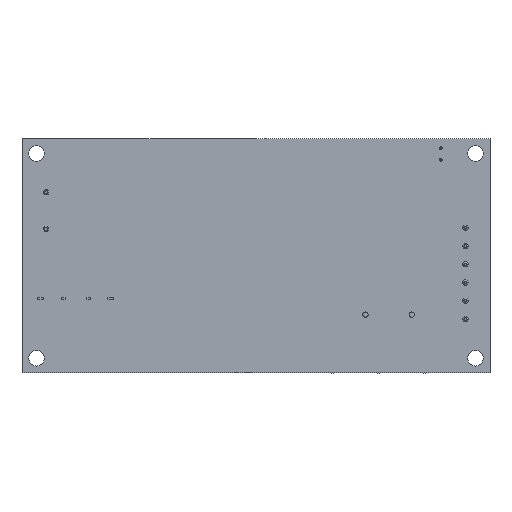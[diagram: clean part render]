
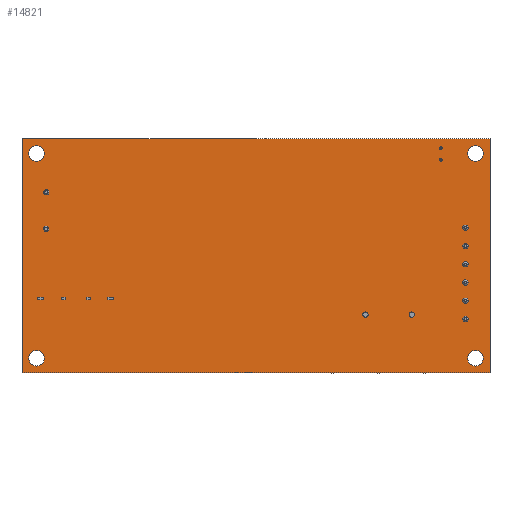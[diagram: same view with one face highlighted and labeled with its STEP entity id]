
A CAD part, front view. The second image highlights one B-rep face of the part: STEP entity #14821.
In plain terms, the highlighted planar face has unit normal (0, -1, 0).
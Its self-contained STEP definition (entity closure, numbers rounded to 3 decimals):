
#55 = PLANE ( 'NONE',  #9511 ) ;
#83 = FACE_BOUND ( 'NONE', #15185, .T. ) ;
#207 = DIRECTION ( 'NONE',  ( 0., 0., 1. ) ) ;
#258 = AXIS2_PLACEMENT_3D ( 'NONE', #8243, #9865, #9619 ) ;
#439 = EDGE_CURVE ( 'NONE', #11201, #5344, #13891, .T. ) ;
#660 = CARTESIAN_POINT ( 'NONE',  ( 98.425, 0., 1.475 ) ) ;
#857 = CARTESIAN_POINT ( 'NONE',  ( 0., 0., 0. ) ) ;
#880 = ORIENTED_EDGE ( 'NONE', *, *, #16663, .T. ) ;
#1185 = CARTESIAN_POINT ( 'NONE',  ( 3.175, 0., 47.625 ) ) ;
#1553 = DIRECTION ( 'NONE',  ( 0., 0., 1. ) ) ;
#1765 = DIRECTION ( 'NONE',  ( 0., 1., 0. ) ) ;
#1878 = DIRECTION ( 'NONE',  ( 1., 0., 0. ) ) ;
#1919 = VERTEX_POINT ( 'NONE', #5780 ) ;
#2081 = FACE_OUTER_BOUND ( 'NONE', #12130, .T. ) ;
#2194 = DIRECTION ( 'NONE',  ( 0., 0., 1. ) ) ;
#2321 = CARTESIAN_POINT ( 'NONE',  ( 3.175, 0., 3.175 ) ) ;
#2885 = VERTEX_POINT ( 'NONE', #12595 ) ;
#2900 = DIRECTION ( 'NONE',  ( 0., 0., 1. ) ) ;
#2935 = CARTESIAN_POINT ( 'NONE',  ( 98.425, 0., 49.325 ) ) ;
#2953 = EDGE_CURVE ( 'NONE', #13351, #8855, #3106, .T. ) ;
#3106 = CIRCLE ( 'NONE', #10464, 1.7 ) ;
#3183 = CARTESIAN_POINT ( 'NONE',  ( 101.6, 0., 0. ) ) ;
#3204 = VERTEX_POINT ( 'NONE', #12169 ) ;
#3669 = DIRECTION ( 'NONE',  ( 0., 1., 0. ) ) ;
#3682 = CIRCLE ( 'NONE', #258, 1.7 ) ;
#4125 = EDGE_LOOP ( 'NONE', ( #15573, #16204 ) ) ;
#4348 = CARTESIAN_POINT ( 'NONE',  ( 0., 0., 0. ) ) ;
#4511 = CARTESIAN_POINT ( 'NONE',  ( 98.425, 0., 3.175 ) ) ;
#4518 = EDGE_CURVE ( 'NONE', #17686, #1919, #14868, .T. ) ;
#4753 = ORIENTED_EDGE ( 'NONE', *, *, #16437, .F. ) ;
#4832 = EDGE_CURVE ( 'NONE', #8422, #11201, #11295, .T. ) ;
#4838 = CARTESIAN_POINT ( 'NONE',  ( 3.175, 0., 47.625 ) ) ;
#4876 = ORIENTED_EDGE ( 'NONE', *, *, #7910, .T. ) ;
#4898 = DIRECTION ( 'NONE',  ( 0., 1., 0. ) ) ;
#5296 = VECTOR ( 'NONE', #2194, 1000. ) ;
#5344 = VERTEX_POINT ( 'NONE', #6273 ) ;
#5371 = DIRECTION ( 'NONE',  ( 0., 0., 1. ) ) ;
#5415 = CARTESIAN_POINT ( 'NONE',  ( 3.175, 0., 45.925 ) ) ;
#5780 = CARTESIAN_POINT ( 'NONE',  ( 98.425, 0., 4.875 ) ) ;
#5939 = FACE_BOUND ( 'NONE', #13310, .T. ) ;
#6021 = VECTOR ( 'NONE', #14888, 1000. ) ;
#6273 = CARTESIAN_POINT ( 'NONE',  ( 101.6, 0., 50.8 ) ) ;
#6418 = AXIS2_PLACEMENT_3D ( 'NONE', #15742, #11348, #12983 ) ;
#6681 = AXIS2_PLACEMENT_3D ( 'NONE', #4511, #1765, #207 ) ;
#6936 = ORIENTED_EDGE ( 'NONE', *, *, #10031, .T. ) ;
#6966 = CARTESIAN_POINT ( 'NONE',  ( 101.6, 0., 0. ) ) ;
#7139 = CARTESIAN_POINT ( 'NONE',  ( 0., 0., 50.8 ) ) ;
#7423 = LINE ( 'NONE', #857, #8316 ) ;
#7490 = EDGE_CURVE ( 'NONE', #5344, #13847, #13795, .T. ) ;
#7613 = AXIS2_PLACEMENT_3D ( 'NONE', #14492, #11707, #1553 ) ;
#7910 = EDGE_CURVE ( 'NONE', #16603, #12824, #10432, .T. ) ;
#8243 = CARTESIAN_POINT ( 'NONE',  ( 98.425, 0., 47.625 ) ) ;
#8316 = VECTOR ( 'NONE', #12329, 1000. ) ;
#8422 = VERTEX_POINT ( 'NONE', #4348 ) ;
#8769 = VECTOR ( 'NONE', #1878, 1000. ) ;
#8828 = CIRCLE ( 'NONE', #16619, 1.7 ) ;
#8844 = DIRECTION ( 'NONE',  ( 0., 0., 1. ) ) ;
#8855 = VERTEX_POINT ( 'NONE', #5415 ) ;
#8997 = ORIENTED_EDGE ( 'NONE', *, *, #4832, .F. ) ;
#9337 = CARTESIAN_POINT ( 'NONE',  ( 0., 0., 0. ) ) ;
#9343 = EDGE_CURVE ( 'NONE', #8855, #13351, #8828, .T. ) ;
#9511 = AXIS2_PLACEMENT_3D ( 'NONE', #7139, #12760, #2900 ) ;
#9619 = DIRECTION ( 'NONE',  ( 0., 0., 1. ) ) ;
#9650 = EDGE_CURVE ( 'NONE', #1919, #17686, #9921, .T. ) ;
#9651 = CARTESIAN_POINT ( 'NONE',  ( 0., 0., 50.8 ) ) ;
#9712 = FACE_BOUND ( 'NONE', #4125, .T. ) ;
#9865 = DIRECTION ( 'NONE',  ( 0., 1., 0. ) ) ;
#9921 = CIRCLE ( 'NONE', #6418, 1.7 ) ;
#10031 = EDGE_CURVE ( 'NONE', #3204, #2885, #12822, .T. ) ;
#10432 = CIRCLE ( 'NONE', #13324, 1.7 ) ;
#10464 = AXIS2_PLACEMENT_3D ( 'NONE', #1185, #12653, #15468 ) ;
#11201 = VERTEX_POINT ( 'NONE', #9651 ) ;
#11295 = LINE ( 'NONE', #9337, #5296 ) ;
#11348 = DIRECTION ( 'NONE',  ( 0., 1., 0. ) ) ;
#11536 = DIRECTION ( 'NONE',  ( 0., 1., 0. ) ) ;
#11707 = DIRECTION ( 'NONE',  ( 0., 1., 0. ) ) ;
#12081 = ORIENTED_EDGE ( 'NONE', *, *, #7490, .F. ) ;
#12130 = EDGE_LOOP ( 'NONE', ( #8997, #4753, #12081, #18106 ) ) ;
#12169 = CARTESIAN_POINT ( 'NONE',  ( 3.175, 0., 4.875 ) ) ;
#12329 = DIRECTION ( 'NONE',  ( -1., 0., 0. ) ) ;
#12595 = CARTESIAN_POINT ( 'NONE',  ( 3.175, 0., 1.475 ) ) ;
#12653 = DIRECTION ( 'NONE',  ( 0., 1., 0. ) ) ;
#12760 = DIRECTION ( 'NONE',  ( 0., 1., 0. ) ) ;
#12780 = CIRCLE ( 'NONE', #7613, 1.7 ) ;
#12822 = CIRCLE ( 'NONE', #14647, 1.7 ) ;
#12824 = VERTEX_POINT ( 'NONE', #2935 ) ;
#12983 = DIRECTION ( 'NONE',  ( 0., 0., 1. ) ) ;
#13310 = EDGE_LOOP ( 'NONE', ( #18127, #14076 ) ) ;
#13324 = AXIS2_PLACEMENT_3D ( 'NONE', #14441, #11536, #8844 ) ;
#13337 = CARTESIAN_POINT ( 'NONE',  ( 0., 0., 50.8 ) ) ;
#13351 = VERTEX_POINT ( 'NONE', #14449 ) ;
#13793 = EDGE_LOOP ( 'NONE', ( #15714, #4876 ) ) ;
#13795 = LINE ( 'NONE', #3183, #6021 ) ;
#13847 = VERTEX_POINT ( 'NONE', #6966 ) ;
#13891 = LINE ( 'NONE', #13337, #8769 ) ;
#14076 = ORIENTED_EDGE ( 'NONE', *, *, #9343, .T. ) ;
#14441 = CARTESIAN_POINT ( 'NONE',  ( 98.425, 0., 47.625 ) ) ;
#14449 = CARTESIAN_POINT ( 'NONE',  ( 3.175, 0., 49.325 ) ) ;
#14492 = CARTESIAN_POINT ( 'NONE',  ( 3.175, 0., 3.175 ) ) ;
#14647 = AXIS2_PLACEMENT_3D ( 'NONE', #2321, #3669, #5371 ) ;
#14821 = ADVANCED_FACE ( 'NONE', ( #9712, #15287, #5939, #83, #2081 ), #55, .F. ) ;
#14868 = CIRCLE ( 'NONE', #6681, 1.7 ) ;
#14888 = DIRECTION ( 'NONE',  ( 0., 0., -1. ) ) ;
#15185 = EDGE_LOOP ( 'NONE', ( #6936, #880 ) ) ;
#15287 = FACE_BOUND ( 'NONE', #13793, .T. ) ;
#15326 = EDGE_CURVE ( 'NONE', #12824, #16603, #3682, .T. ) ;
#15454 = CARTESIAN_POINT ( 'NONE',  ( 98.425, 0., 45.925 ) ) ;
#15468 = DIRECTION ( 'NONE',  ( 0., 0., 1. ) ) ;
#15573 = ORIENTED_EDGE ( 'NONE', *, *, #9650, .T. ) ;
#15714 = ORIENTED_EDGE ( 'NONE', *, *, #15326, .T. ) ;
#15742 = CARTESIAN_POINT ( 'NONE',  ( 98.425, 0., 3.175 ) ) ;
#16204 = ORIENTED_EDGE ( 'NONE', *, *, #4518, .T. ) ;
#16332 = DIRECTION ( 'NONE',  ( 0., 0., 1. ) ) ;
#16437 = EDGE_CURVE ( 'NONE', #13847, #8422, #7423, .T. ) ;
#16603 = VERTEX_POINT ( 'NONE', #15454 ) ;
#16619 = AXIS2_PLACEMENT_3D ( 'NONE', #4838, #4898, #16332 ) ;
#16663 = EDGE_CURVE ( 'NONE', #2885, #3204, #12780, .T. ) ;
#17686 = VERTEX_POINT ( 'NONE', #660 ) ;
#18106 = ORIENTED_EDGE ( 'NONE', *, *, #439, .F. ) ;
#18127 = ORIENTED_EDGE ( 'NONE', *, *, #2953, .T. ) ;
